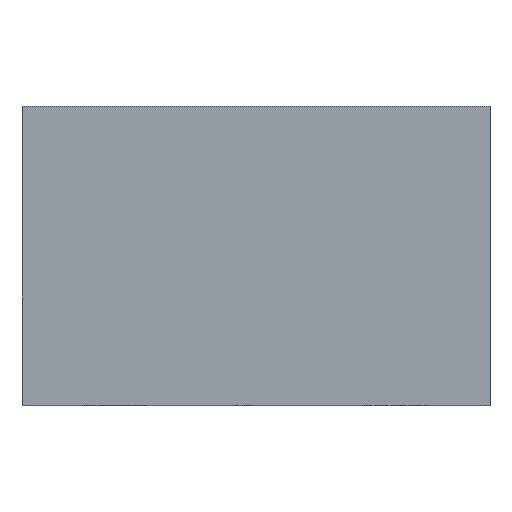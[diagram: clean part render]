
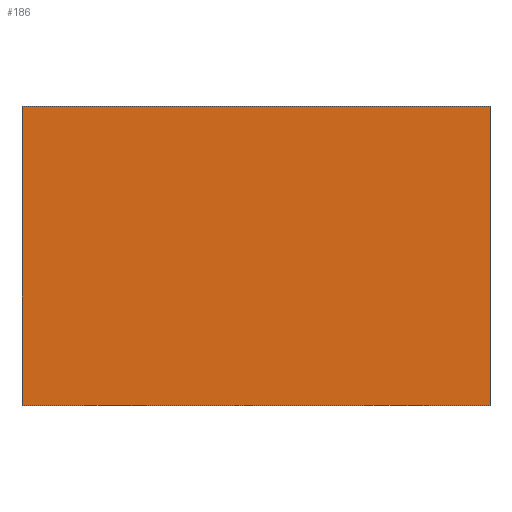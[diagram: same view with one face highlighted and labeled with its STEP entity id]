
A CAD part, top view. The second image highlights one B-rep face of the part: STEP entity #186.
In plain terms, the highlighted planar face has unit normal (0, 0, 1).
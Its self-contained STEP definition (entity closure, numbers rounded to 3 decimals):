
#40=ORIENTED_EDGE('',*,*,#79,.T.);
#41=ORIENTED_EDGE('',*,*,#80,.F.);
#42=ORIENTED_EDGE('',*,*,#81,.F.);
#43=ORIENTED_EDGE('',*,*,#77,.T.);
#77=EDGE_CURVE('',#97,#96,#113,.T.);
#79=EDGE_CURVE('',#96,#98,#115,.T.);
#80=EDGE_CURVE('',#99,#98,#116,.T.);
#81=EDGE_CURVE('',#97,#99,#117,.T.);
#96=VERTEX_POINT('',#295);
#97=VERTEX_POINT('',#297);
#98=VERTEX_POINT('',#301);
#99=VERTEX_POINT('',#303);
#113=LINE('',#296,#125);
#115=LINE('',#300,#127);
#116=LINE('',#302,#128);
#117=LINE('',#304,#129);
#125=VECTOR('',#240,1000.);
#127=VECTOR('',#244,1000.);
#128=VECTOR('',#245,1000.);
#129=VECTOR('',#246,1000.);
#134=EDGE_LOOP('',(#40,#41,#42,#43));
#156=FACE_BOUND('',#134,.T.);
#178=PLANE('',#211);
#186=ADVANCED_FACE('',(#156),#178,.F.);
#211=AXIS2_PLACEMENT_3D('',#299,#242,#243);
#240=DIRECTION('',(0.,-1.,0.));
#242=DIRECTION('',(0.,0.,-1.));
#243=DIRECTION('',(-1.,0.,0.));
#244=DIRECTION('',(1.,0.,0.));
#245=DIRECTION('',(0.,-1.,0.));
#246=DIRECTION('',(1.,0.,0.));
#295=CARTESIAN_POINT('',(-40.,0.,12.5));
#296=CARTESIAN_POINT('',(-40.,51.1,12.5));
#297=CARTESIAN_POINT('',(-40.,51.1,12.5));
#299=CARTESIAN_POINT('',(-40.,51.1,12.5));
#300=CARTESIAN_POINT('',(-40.,0.,12.5));
#301=CARTESIAN_POINT('',(40.,0.,12.5));
#302=CARTESIAN_POINT('',(40.,51.1,12.5));
#303=CARTESIAN_POINT('',(40.,51.1,12.5));
#304=CARTESIAN_POINT('',(-40.,51.1,12.5));
